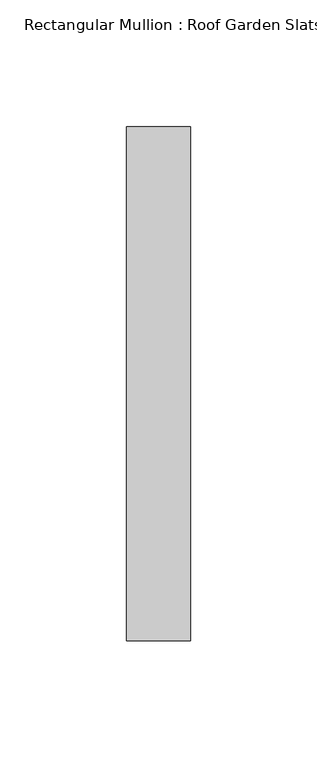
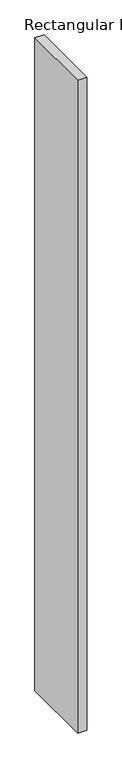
"""IFC4 building model written with IfcOpenShell, lengths in millimetres: member geometry, Rectangular Mullion : Roof Garden Slats."""

import ifcopenshell
import ifcopenshell.guid

model = None  # the IFC model being written
_history = None  # IfcOwnerHistory: only IFC2X3 demands one
_inside = {}  # id of a spatial element -> (the spatial element, [elements in it])
_under = {}  # id of a project, library or spatial element -> (it, [spatial elements below it])
_declared = {}  # id of a project -> (the project, [libraries it declares])
_typed = {}  # id of a type object -> (the type object, [elements of that type])
_made_of = {}  # id of a material, layer set ... -> (it, [elements and type objects made of it])


def new_model(schema):
    """Start an empty IFC model of exactly this schema.

    Asked for "IFC4X3", IfcOpenShell would pick the latest addendum, in which some entities
    have other attributes; the version numbers below select the first issue.
    IFC2X3 requires an IfcOwnerHistory on every rooted entity: one is made here for all.
    """
    global model, _history
    if schema == "IFC4X3":
        model = ifcopenshell.file(schema_version=(4, 3, 0, 0))
    else:
        model = ifcopenshell.file(schema=schema)
    _inside.clear()
    _under.clear()
    _declared.clear()
    _typed.clear()
    _made_of.clear()
    _history = None
    if model.schema == "IFC2X3":
        org = make("IfcOrganization", Name="unknown")
        user = make(
            "IfcPersonAndOrganization",
            ThePerson=make("IfcPerson", FamilyName="unknown"),
            TheOrganization=org,
        )
        app = make(
            "IfcApplication",
            ApplicationDeveloper=org,
            Version="unknown",
            ApplicationFullName="unknown",
            ApplicationIdentifier="unknown",
        )
        _history = make(
            "IfcOwnerHistory",
            OwningUser=user,
            OwningApplication=app,
            ChangeAction="ADDED",
            CreationDate=0,
        )
    return model


def make(cls, **values):
    """One entity of the class cls with the attributes given. An attribute that is None is left unset."""
    return model.create_entity(
        cls, **{name: value for name, value in values.items() if value is not None}
    )


def rooted(cls, **values):
    """An entity with a GlobalId (a new one), such as an element, a storey or a relation."""
    return make(cls, GlobalId=ifcopenshell.guid.new(), OwnerHistory=_history, **values)


def si_unit(unit_type, name, prefix=None):
    """IfcSIUnit, for example si_unit("LENGTHUNIT", "METRE", prefix="MILLI")."""
    return make("IfcSIUnit", UnitType=unit_type, Prefix=prefix, Name=name)


def assignment(units):
    """IfcUnitAssignment: the units of a project."""
    return None if units is None else make("IfcUnitAssignment", Units=units)


def point(xyz):
    """IfcCartesianPoint."""
    return None if xyz is None else make("IfcCartesianPoint", Coordinates=xyz)


def direction(xyz):
    """IfcDirection."""
    return None if xyz is None else make("IfcDirection", DirectionRatios=xyz)


def frame(location, z_axis=None, x_axis=None):
    """IfcAxis2Placement3D, a coordinate frame: its origin and axes. An axis left out is left unset."""
    return make(
        "IfcAxis2Placement3D",
        Location=point(location),
        Axis=direction(z_axis),
        RefDirection=direction(x_axis),
    )


def origin():
    """The frame at (0, 0, 0) with its axes left unset."""
    return frame((0.0, 0.0, 0.0))


def place(relative_to, where):
    """IfcLocalPlacement: puts the frame where relative to a parent placement (None: the world)."""
    return make(
        "IfcLocalPlacement", PlacementRelTo=relative_to, RelativePlacement=where
    )


def context(
    kind, dimensions, precision=None, world=None, true_north=None, identifier=None
):
    """IfcGeometricRepresentationContext, for example the 3D "Model" context."""
    return make(
        "IfcGeometricRepresentationContext",
        ContextIdentifier=identifier,
        ContextType=kind,
        CoordinateSpaceDimension=dimensions,
        Precision=precision,
        WorldCoordinateSystem=world,
        TrueNorth=true_north,
    )


def project(units=None, contexts=None):
    """IfcProject with its units and contexts."""
    return rooted(
        "IfcProject",
        Name="project",
        RepresentationContexts=contexts,
        UnitsInContext=assignment(units),
    )


def spatial(cls, under=None, at=None, **own):
    """A site, building, storey or space (cls), placed at a placement, below another one or the project."""
    s = rooted(cls, ObjectPlacement=at, **own)
    if under is not None:
        _under.setdefault(under.id(), (under, []))[1].append(s)
    return s


def polyline(points):
    """IfcPolyline through the points."""
    return make("IfcPolyline", Points=[point(p) for p in points])


def outline(outer, holes=None, kind="AREA"):
    """IfcArbitraryClosedProfileDef: a profile drawn as a closed curve; with holes, ...WithVoids."""
    if holes is None:
        return make("IfcArbitraryClosedProfileDef", ProfileType=kind, OuterCurve=outer)
    return make(
        "IfcArbitraryProfileDefWithVoids",
        ProfileType=kind,
        OuterCurve=outer,
        InnerCurves=holes,
    )


def extrude(swept, where, along, depth):
    """IfcExtrudedAreaSolid: the profile swept, set in the frame where, extruded along a direction by depth."""
    return make(
        "IfcExtrudedAreaSolid",
        SweptArea=swept,
        Position=where,
        ExtrudedDirection=direction(along),
        Depth=depth,
    )


def shape(context_of_items, identifier, shape_type, items):
    """IfcShapeRepresentation: the items that make up one representation, for example the "Body"."""
    return make(
        "IfcShapeRepresentation",
        ContextOfItems=context_of_items,
        RepresentationIdentifier=identifier,
        RepresentationType=shape_type,
        Items=items,
    )


def source(mapping_origin, context_of_items, identifier, shape_type, items):
    """IfcRepresentationMap: a shape defined once, which mapped items show again and again."""
    return make(
        "IfcRepresentationMap",
        MappingOrigin=mapping_origin,
        MappedRepresentation=shape(context_of_items, identifier, shape_type, items),
    )


def transform(
    local_origin,
    x_axis=None,
    y_axis=None,
    z_axis=None,
    scale=None,
    scale2=None,
    scale3=None,
    uniform=True,
):
    """IfcCartesianTransformationOperator3D, or its non-uniform kind. x_axis, y_axis, z_axis: its Axis1, 2, 3."""
    if uniform:
        return make(
            "IfcCartesianTransformationOperator3D",
            Axis1=direction(x_axis),
            Axis2=direction(y_axis),
            LocalOrigin=point(local_origin),
            Scale=scale,
            Axis3=direction(z_axis),
        )
    return make(
        "IfcCartesianTransformationOperator3DnonUniform",
        Axis1=direction(x_axis),
        Axis2=direction(y_axis),
        LocalOrigin=point(local_origin),
        Scale=scale,
        Axis3=direction(z_axis),
        Scale2=scale2,
        Scale3=scale3,
    )


def mapped(mapping_source, mapping_target):
    """IfcMappedItem: shows the shape of a source again, moved by a transform."""
    return make(
        "IfcMappedItem", MappingSource=mapping_source, MappingTarget=mapping_target
    )


def made_of(thing, what):
    """Note that an element or type object is made of a material, layer set ...; save() writes the relation."""
    if what is not None:
        _made_of.setdefault(what.id(), (what, []))[1].append(thing)
    return thing


def element(
    cls,
    number,
    at=None,
    inside=None,
    cuts=None,
    type_object=None,
    material=None,
    context=None,
    identifier="Body",
    shape_type=None,
    held_by="IfcProductDefinitionShape",
    body=None,
    shapes=None,
    **own,
):
    """One element of the class cls, such as IfcWall. Its Tag is "e" and its number.

    at: its placement. inside: the storey or other place that contains it. cuts: it is an
    opening in that element (IfcRelVoidsElement). A single representation is given by context,
    identifier, shape_type and body (its items); several are given by shapes. held_by: the class
    of the entity that holds the representations. save() writes the other relations.
    """
    e = rooted(cls, Tag="e%d" % number, ObjectPlacement=at, **own)
    if body is not None:
        shapes = [shape(context, identifier, shape_type, body)]
    if shapes is not None:
        e.Representation = make(held_by, Representations=shapes)
    if inside is not None:
        _inside.setdefault(inside.id(), (inside, []))[1].append(e)
    if cuts is not None:
        rooted(
            "IfcRelVoidsElement", RelatingBuildingElement=cuts, RelatedOpeningElement=e
        )
    if type_object is not None:
        _typed.setdefault(type_object.id(), (type_object, []))[1].append(e)
    return made_of(e, material)


def aggregate(whole, parts):
    """IfcRelAggregates: a whole, such as a stair, and the parts it consists of."""
    return rooted("IfcRelAggregates", RelatingObject=whole, RelatedObjects=parts)


def save(model, path):
    """Write the relations noted so far, then the file.

    IfcRelAggregates (storeys below a building ...), IfcRelContainedInSpatialStructure (elements
    in a storey), IfcRelDefinesByType, IfcRelAssociatesMaterial and IfcRelDeclares: one each for
    every whole, place, type object, material and project.
    """
    for whole, parts in _under.values():
        aggregate(whole, parts)
    for where, things in _inside.values():
        rooted(
            "IfcRelContainedInSpatialStructure",
            RelatedElements=things,
            RelatingStructure=where,
        )
    for kind, things in _typed.values():
        rooted("IfcRelDefinesByType", RelatedObjects=things, RelatingType=kind)
    for what, things in _made_of.values():
        rooted("IfcRelAssociatesMaterial", RelatedObjects=things, RelatingMaterial=what)
    for by, libraries in _declared.values():
        rooted("IfcRelDeclares", RelatingContext=by, RelatedDefinitions=libraries)
    model.write(path)


def rectangular_mullion_roof_garden_slats_e8a4504c(model_context):
    return source(origin(), model_context, "Body", "SweptSolid", [
        extrude(outline(polyline([(0.0, 139.7), (0.0, -63.5), (-25.4, -63.5), (-25.4, 139.7), (0.0, 139.7)])), frame((0.0, 0.0, -1900.4373758), z_axis=(0.0, 0.0, 1.0), x_axis=(1.0, 0.0, 0.0)), (0.0, 0.0, 1.0), 1900.4373758),
    ])


if __name__ == "__main__":
    model = new_model("IFC4")
    model_context = context("Model", 3, world=origin())
    ifc_project = project(units=[si_unit("LENGTHUNIT", "METRE", prefix="MILLI")], contexts=[model_context])
    site = spatial("IfcSite", under=ifc_project)
    building = spatial("IfcBuilding", under=site)
    placement = place(None, origin())
    rectangular_mullion_roof_garden_slats_shape = rectangular_mullion_roof_garden_slats_e8a4504c(model_context)
    element("IfcMember", 1, ObjectType="Rectangular Mullion : Roof Garden Slats", at=placement, inside=building, context=model_context, shape_type="MappedRepresentation", body=[
        mapped(rectangular_mullion_roof_garden_slats_shape, transform((0.0, 0.0, 0.0), x_axis=(1.0, 0.0, 0.0), y_axis=(0.0, 1.0, 0.0), z_axis=(0.0, 0.0, 1.0))),
    ])
    save(model, "model.ifc")
